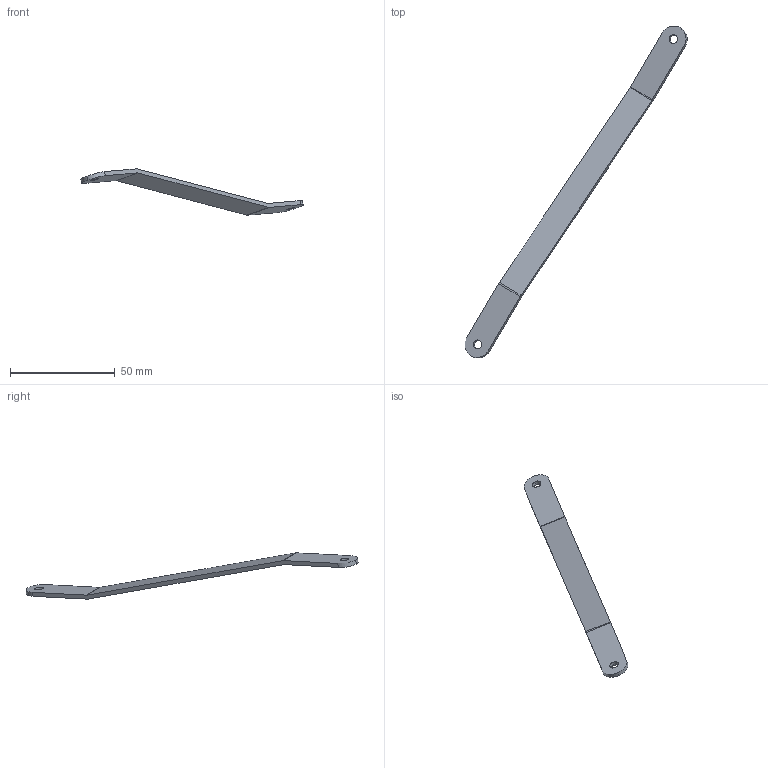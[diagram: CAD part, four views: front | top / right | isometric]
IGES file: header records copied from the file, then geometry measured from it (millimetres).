
Start section: START RECORD GO HERE.
Global section: file name: EN_02015 (Radiator Low Rear Bar).igs; native system: DASSAULT SYSTEMES CATIA Version 5-6 Release 2023 - www.3ds.com; preprocessor: V5-6R2023_5.33.5.0.08-23-2024.22.00; author: basti; organization: BASTIEN; date: 20250131.154907; units: millimetre
Bounding box: 106.04 x 158.34 x 22.08 mm (x, y, z)
Surface area: 5415.3 mm2 (no closed solid volume)
Topology: 0 solids, 0 shells, 20 faces, 114 edges, 123 vertices
Faces by surface type: revolution 12, plane 8
